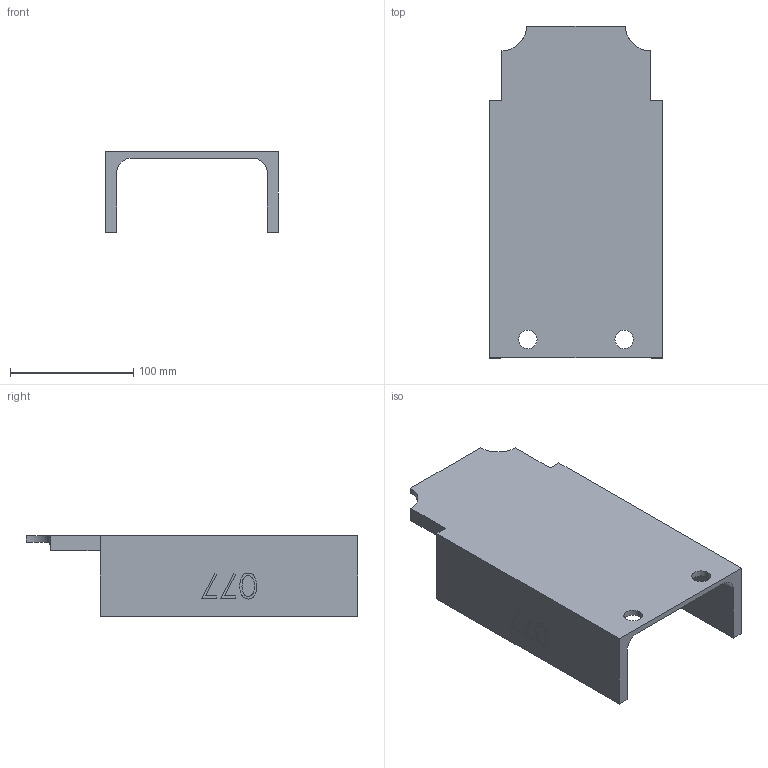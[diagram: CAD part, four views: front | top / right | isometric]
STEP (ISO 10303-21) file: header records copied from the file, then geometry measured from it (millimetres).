
FILE_DESCRIPTION (( 'STEP AP214' ), '1' );
FILE_NAME ('CCJ029-REP.077 - PATTE SUPPORT DEFENSE 2M.STEP', '2025-04-16T13:33:34', ( '' ), ( '' ), 'SwSTEP 2.0', 'SolidWorks 2021', '' );
FILE_SCHEMA (( 'AUTOMOTIVE_DESIGN' ));
Length unit declared in the file: millimetre
Products named in the file (1): CCJ029-REP.077 - PATTE SUPPORT DEFENSE 2M
Bounding box: 140 x 269 x 65 mm (x, y, z)
Volume: 417789.6 mm3; surface area: 126557.8 mm2
Topology: 1 solids, 1 shells, 47 faces, 123 edges, 82 vertices
Faces by surface type: plane 30, bspline 9, cylinder 8
Entity records: 2229 total; most frequent: CARTESIAN_POINT 1074, ORIENTED_EDGE 246, DIRECTION 197, EDGE_CURVE 123, VECTOR 87, LINE 87, VERTEX_POINT 82, EDGE_LOOP 55
